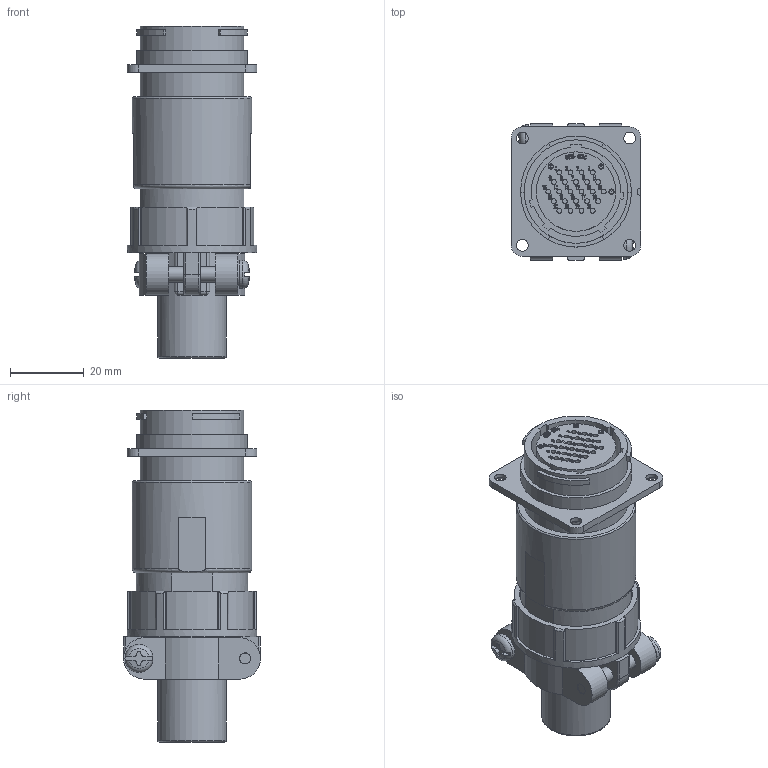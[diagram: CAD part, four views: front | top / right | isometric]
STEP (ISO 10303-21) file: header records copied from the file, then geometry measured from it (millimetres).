
FILE_DESCRIPTION (( 'STEP AP203' ), '1' );
FILE_NAME ('WEBWR2524F-7-D(R1).STEP', '2021-08-10T02:05:08', ( '' ), ( '' ), 'SwSTEP 2.0', 'SolidWorks 2018', '' );
FILE_SCHEMA (( 'CONFIG_CONTROL_DESIGN' ));
Products named in the file (1): WEBWR2524F-7-D(R1)
Bounding box: 35 x 37 x 89.8 mm (x, y, z)
Volume: 38463.3 mm3; surface area: 23874.5 mm2
Topology: 1 solids, 1 shells, 2030 faces, 5513 edges, 3651 vertices
Faces by surface type: plane 879, bspline 865, cylinder 224, cone 36, torus 18, sphere 8
Full cylindrical faces by diameter (mm): 1.1 x24, 1.2 x4, 1.3 x24, 1.4 x4, 1.55 x24, 2.8 x2, 3 x2, 3.2 x4, 4.1 x2, 4.3 x4, 7.6 x2, 17 x2, 17.8 x1, 18.64 x1, 19 x1, 21.5 x2, 23.2 x1, 23.6 x1, 27.96 x1, 28 x1, 30 x1, 30.5 x1, 32.3 x1, 35 x1
Entity records: 93812 total; most frequent: CARTESIAN_POINT 49443, ORIENTED_EDGE 10524, DIRECTION 6244, EDGE_CURVE 5262, VERTEX_POINT 3560, LINE 2956, VECTOR 2956, EDGE_LOOP 2388
